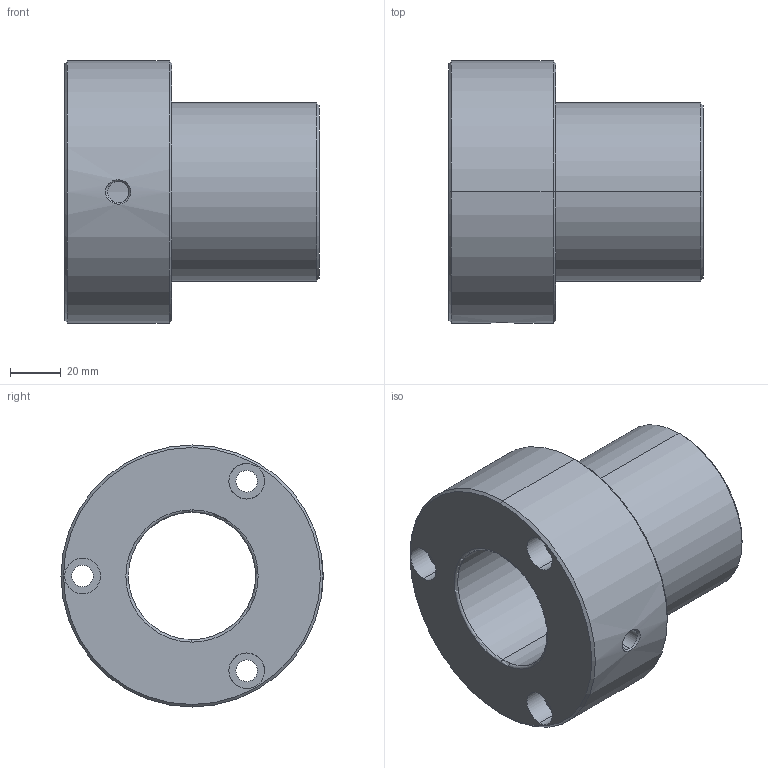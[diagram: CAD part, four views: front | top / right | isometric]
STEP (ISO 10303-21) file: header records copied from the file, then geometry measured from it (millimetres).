
FILE_DESCRIPTION(('CATIA V5 STEP Exchange'),'2;1');
FILE_NAME('C:\Users\Utente\Desktop\IO LAVORO\3D X SITO CF\X SITO\3D files 346\346-50.stp','2020-12-25T21:23:44+00:00',('none'),('none'),'CATIA Version 5 Release 20 GA (IN-10)','CATIA V5 STEP AP203','none');
FILE_SCHEMA(('CONFIG_CONTROL_DESIGN'));
Length unit declared in the file: millimetre
Products named in the file (1): 346-50
Bounding box: 100 x 103 x 103 mm (x, y, z)
Volume: 363506.6 mm3; surface area: 58344.1 mm2
Topology: 1 solids, 1 shells, 39 faces, 147 edges, 115 vertices
Faces by surface type: cylinder 22, cone 8, plane 7, torus 2
Entity records: 1977 total; most frequent: CARTESIAN_POINT 682, ORIENTED_EDGE 294, DIRECTION 198, EDGE_CURVE 147, AXIS2_PLACEMENT_3D 130, VERTEX_POINT 115, CIRCLE 90, EDGE_LOOP 54
